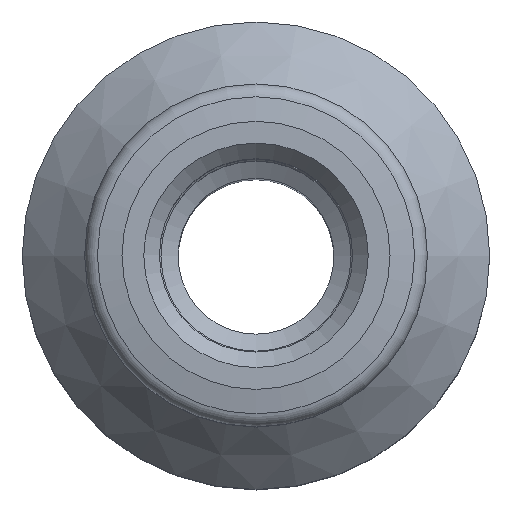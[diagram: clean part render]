
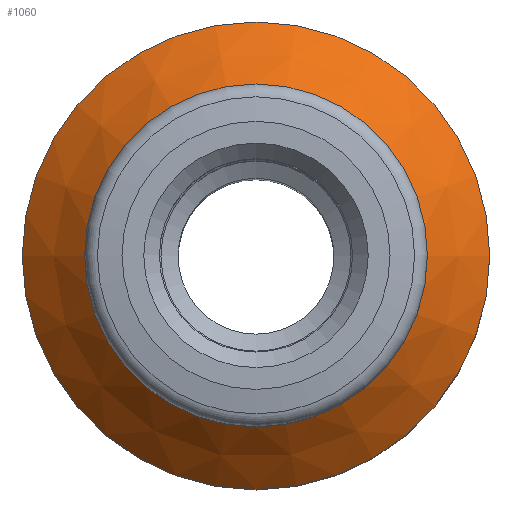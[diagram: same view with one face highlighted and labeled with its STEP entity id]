
A CAD part, top view. The second image highlights one B-rep face of the part: STEP entity #1060.
In plain terms, the highlighted conical face has half-angle 45 degrees and reference radius 7.5 mm.
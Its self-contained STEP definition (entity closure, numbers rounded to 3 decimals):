
#1060=ADVANCED_FACE('', (#1070,#1080), #1090, .T.);
#2520=AXIS2_PLACEMENT_3D('Ax2Pl3d', #2530, #2540, #2550);
#3560=AXIS2_PLACEMENT_3D('Ax2Pl3d', #3570, #3580, #3590);
#3600=AXIS2_PLACEMENT_3D('Ax2Pl3d', #3610, #3620, #3630);
#2530=CARTESIAN_POINT('HicPkt', (10.228,10.668,
42.503));
#4850=CARTESIAN_POINT('', (15.728,10.668,42.503));
#3570=CARTESIAN_POINT('HicPkt', (10.228,10.668,
40.503));
#4980=CARTESIAN_POINT('', (17.728,10.668,40.503));
#3610=CARTESIAN_POINT('HicPkt', (10.228,10.668,
40.503));
#5220=CIRCLE('Circle', #2520, 5.5);
#5350=CIRCLE('Circle', #3560, 7.5);
#1090=CONICAL_SURFACE('Kegel', #3600, 7.5, 0.785);
#2540=DIRECTION('Axis', (0.,0.,-1.));
#2550=DIRECTION('RefDirection', (-1.,-0.,0.));
#3580=DIRECTION('Axis', (0.,0.,-1.));
#3590=DIRECTION('RefDirection', (-1.,-0.,0.));
#3620=DIRECTION('Axis', (0.,0.,-1.));
#3630=DIRECTION('RefDirection', (-1.,-0.,0.));
#6910=EDGE_CURVE('', #6920, #6920, #5220, .T.);
#7170=EDGE_CURVE('', #7180, #7180, #5350, .T.);
#8390=EDGE_LOOP('Edge_loop', (#8400));
#8410=EDGE_LOOP('Edge_loop', (#8420));
#1080=FACE_BOUND('', #8410, .T.);
#1070=FACE_OUTER_BOUND('Face_outer_bound', #8390, .T.);
#8400=ORIENTED_EDGE('', *, *, #7170, .F.);
#8420=ORIENTED_EDGE('', *, *, #6910, .T.);
#6920=VERTEX_POINT('', #4850);
#7180=VERTEX_POINT('', #4980);
